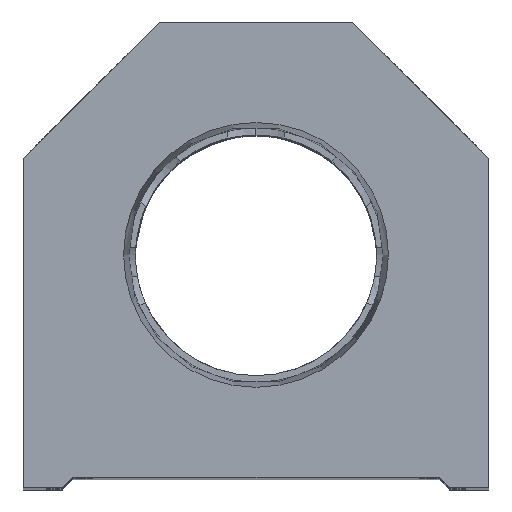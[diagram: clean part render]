
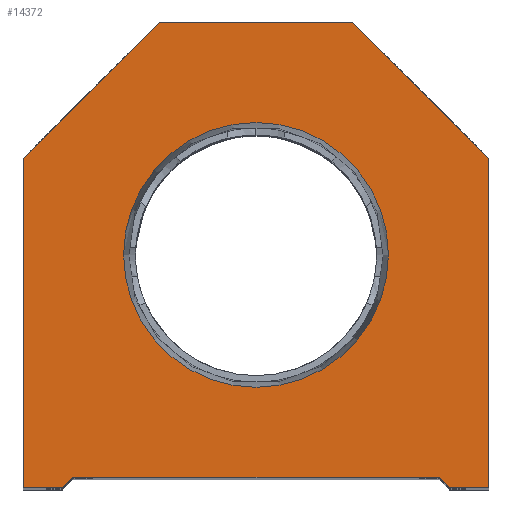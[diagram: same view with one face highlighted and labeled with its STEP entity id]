
A CAD part, top view. The second image highlights one B-rep face of the part: STEP entity #14372.
In plain terms, the highlighted planar face has unit normal (0, 0, 1).
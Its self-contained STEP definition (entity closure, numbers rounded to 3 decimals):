
#9 = LINE ( 'NONE', #11746, #7691 ) ;
#97 = DIRECTION ( 'NONE',  ( 0., 1., 0. ) ) ;
#179 = EDGE_CURVE ( 'NONE', #1998, #10334, #10818, .T. ) ;
#592 = VECTOR ( 'NONE', #7209, 1000. ) ;
#1196 = DIRECTION ( 'NONE',  ( 0., 0., 1. ) ) ;
#1326 = LINE ( 'NONE', #10498, #592 ) ;
#1570 = ORIENTED_EDGE ( 'NONE', *, *, #17648, .T. ) ;
#1633 = ORIENTED_EDGE ( 'NONE', *, *, #2440, .T. ) ;
#1998 = VERTEX_POINT ( 'NONE', #14518 ) ;
#2440 = EDGE_CURVE ( 'NONE', #16268, #11298, #12122, .T. ) ;
#2460 = CARTESIAN_POINT ( 'NONE',  ( -22.25, 0., 0. ) ) ;
#2879 = DIRECTION ( 'NONE',  ( -0.707, -0.707, 0. ) ) ;
#2979 = CARTESIAN_POINT ( 'NONE',  ( -22.25, 0., 0. ) ) ;
#3116 = DIRECTION ( 'NONE',  ( 0., 0., 1. ) ) ;
#3128 = VERTEX_POINT ( 'NONE', #5138 ) ;
#3136 = CARTESIAN_POINT ( 'NONE',  ( 22.25, 0., 0. ) ) ;
#3418 = PLANE ( 'NONE',  #5372 ) ;
#3518 = ORIENTED_EDGE ( 'NONE', *, *, #7723, .T. ) ;
#3619 = EDGE_CURVE ( 'NONE', #16273, #9450, #12036, .T. ) ;
#4024 = LINE ( 'NONE', #17375, #4501 ) ;
#4047 = CARTESIAN_POINT ( 'NONE',  ( -18.5, 0., 0. ) ) ;
#4059 = CIRCLE ( 'NONE', #17440, 12.647 ) ;
#4487 = EDGE_CURVE ( 'NONE', #3128, #7134, #9, .T. ) ;
#4501 = VECTOR ( 'NONE', #9981, 1000. ) ;
#5138 = CARTESIAN_POINT ( 'NONE',  ( 9.25, 44.5, 0. ) ) ;
#5372 = AXIS2_PLACEMENT_3D ( 'NONE', #6343, #10623, #13757 ) ;
#5593 = CARTESIAN_POINT ( 'NONE',  ( 0., 22.25, 0. ) ) ;
#5596 = VECTOR ( 'NONE', #18161, 1000. ) ;
#5618 = CARTESIAN_POINT ( 'NONE',  ( 22.25, 0., 0. ) ) ;
#5740 = CARTESIAN_POINT ( 'NONE',  ( -17.5, 1., 0. ) ) ;
#5844 = VERTEX_POINT ( 'NONE', #13563 ) ;
#5860 = EDGE_LOOP ( 'NONE', ( #3518, #9454, #15323, #16223, #1570, #1633, #8810, #13935, #5872, #8410 ) ) ;
#5872 = ORIENTED_EDGE ( 'NONE', *, *, #12820, .T. ) ;
#5926 = CARTESIAN_POINT ( 'NONE',  ( 18.5, 0., 0. ) ) ;
#6343 = CARTESIAN_POINT ( 'NONE',  ( 0., 0., 0. ) ) ;
#6632 = EDGE_LOOP ( 'NONE', ( #7649, #9386 ) ) ;
#6831 = CARTESIAN_POINT ( 'NONE',  ( -22.25, 31.5, 0. ) ) ;
#7134 = VERTEX_POINT ( 'NONE', #15173 ) ;
#7167 = DIRECTION ( 'NONE',  ( 1., 0., 0. ) ) ;
#7209 = DIRECTION ( 'NONE',  ( 1., 0., 0. ) ) ;
#7616 = FACE_OUTER_BOUND ( 'NONE', #5860, .T. ) ;
#7649 = ORIENTED_EDGE ( 'NONE', *, *, #9461, .F. ) ;
#7691 = VECTOR ( 'NONE', #13587, 1000. ) ;
#7723 = EDGE_CURVE ( 'NONE', #12813, #16397, #1326, .T. ) ;
#7734 = CARTESIAN_POINT ( 'NONE',  ( 22.25, 31.5, 0. ) ) ;
#7812 = FACE_BOUND ( 'NONE', #6632, .T. ) ;
#7882 = CARTESIAN_POINT ( 'NONE',  ( 22.25, 31.5, 0. ) ) ;
#8224 = VECTOR ( 'NONE', #10308, 1000. ) ;
#8410 = ORIENTED_EDGE ( 'NONE', *, *, #13179, .T. ) ;
#8462 = VECTOR ( 'NONE', #12387, 1000. ) ;
#8765 = LINE ( 'NONE', #14599, #8224 ) ;
#8810 = ORIENTED_EDGE ( 'NONE', *, *, #10678, .T. ) ;
#8820 = VECTOR ( 'NONE', #9953, 1000. ) ;
#8836 = VERTEX_POINT ( 'NONE', #6831 ) ;
#9134 = LINE ( 'NONE', #14878, #15395 ) ;
#9386 = ORIENTED_EDGE ( 'NONE', *, *, #3619, .F. ) ;
#9450 = VERTEX_POINT ( 'NONE', #14748 ) ;
#9454 = ORIENTED_EDGE ( 'NONE', *, *, #15606, .T. ) ;
#9461 = EDGE_CURVE ( 'NONE', #9450, #16273, #4059, .T. ) ;
#9953 = DIRECTION ( 'NONE',  ( 1., 0., 0. ) ) ;
#9981 = DIRECTION ( 'NONE',  ( 1., 0., 0. ) ) ;
#10308 = DIRECTION ( 'NONE',  ( 0.707, 0.707, 0. ) ) ;
#10334 = VERTEX_POINT ( 'NONE', #5926 ) ;
#10387 = CARTESIAN_POINT ( 'NONE',  ( -12.647, 22.25, 0. ) ) ;
#10498 = CARTESIAN_POINT ( 'NONE',  ( -17.5, 0., 0. ) ) ;
#10623 = DIRECTION ( 'NONE',  ( 0., 0., 1. ) ) ;
#10678 = EDGE_CURVE ( 'NONE', #11298, #3128, #10749, .T. ) ;
#10749 = LINE ( 'NONE', #7734, #5596 ) ;
#10818 = LINE ( 'NONE', #11011, #8462 ) ;
#11011 = CARTESIAN_POINT ( 'NONE',  ( 9.25, 9.25, 0. ) ) ;
#11156 = DIRECTION ( 'NONE',  ( 0., -1., 0. ) ) ;
#11298 = VERTEX_POINT ( 'NONE', #7882 ) ;
#11746 = CARTESIAN_POINT ( 'NONE',  ( 9.25, 44.5, 0. ) ) ;
#12036 = CIRCLE ( 'NONE', #16388, 12.647 ) ;
#12122 = LINE ( 'NONE', #3136, #17603 ) ;
#12387 = DIRECTION ( 'NONE',  ( 0.707, -0.707, 0. ) ) ;
#12813 = VERTEX_POINT ( 'NONE', #2979 ) ;
#12820 = EDGE_CURVE ( 'NONE', #7134, #8836, #9134, .T. ) ;
#13179 = EDGE_CURVE ( 'NONE', #8836, #12813, #18952, .T. ) ;
#13462 = DIRECTION ( 'NONE',  ( 1., 0., 0. ) ) ;
#13563 = CARTESIAN_POINT ( 'NONE',  ( -17.5, 1., 0. ) ) ;
#13587 = DIRECTION ( 'NONE',  ( -1., 0., 0. ) ) ;
#13656 = CARTESIAN_POINT ( 'NONE',  ( 0., 22.25, 0. ) ) ;
#13757 = DIRECTION ( 'NONE',  ( 1., 0., 0. ) ) ;
#13935 = ORIENTED_EDGE ( 'NONE', *, *, #4487, .T. ) ;
#14372 = ADVANCED_FACE ( 'NONE', ( #7812, #7616 ), #3418, .T. ) ;
#14518 = CARTESIAN_POINT ( 'NONE',  ( 17.5, 1., 0. ) ) ;
#14599 = CARTESIAN_POINT ( 'NONE',  ( -9.25, 9.25, 0. ) ) ;
#14689 = EDGE_CURVE ( 'NONE', #5844, #1998, #17729, .T. ) ;
#14748 = CARTESIAN_POINT ( 'NONE',  ( 12.647, 22.25, 0. ) ) ;
#14878 = CARTESIAN_POINT ( 'NONE',  ( -22.25, 31.5, 0. ) ) ;
#15173 = CARTESIAN_POINT ( 'NONE',  ( -9.25, 44.5, 0. ) ) ;
#15323 = ORIENTED_EDGE ( 'NONE', *, *, #14689, .T. ) ;
#15395 = VECTOR ( 'NONE', #2879, 1000. ) ;
#15606 = EDGE_CURVE ( 'NONE', #16397, #5844, #8765, .T. ) ;
#16223 = ORIENTED_EDGE ( 'NONE', *, *, #179, .T. ) ;
#16268 = VERTEX_POINT ( 'NONE', #5618 ) ;
#16273 = VERTEX_POINT ( 'NONE', #10387 ) ;
#16388 = AXIS2_PLACEMENT_3D ( 'NONE', #13656, #3116, #13462 ) ;
#16397 = VERTEX_POINT ( 'NONE', #4047 ) ;
#17375 = CARTESIAN_POINT ( 'NONE',  ( 17.5, 0., 0. ) ) ;
#17440 = AXIS2_PLACEMENT_3D ( 'NONE', #5593, #1196, #7167 ) ;
#17541 = VECTOR ( 'NONE', #11156, 1000. ) ;
#17603 = VECTOR ( 'NONE', #97, 1000. ) ;
#17648 = EDGE_CURVE ( 'NONE', #10334, #16268, #4024, .T. ) ;
#17729 = LINE ( 'NONE', #5740, #8820 ) ;
#18161 = DIRECTION ( 'NONE',  ( -0.707, 0.707, 0. ) ) ;
#18952 = LINE ( 'NONE', #2460, #17541 ) ;
